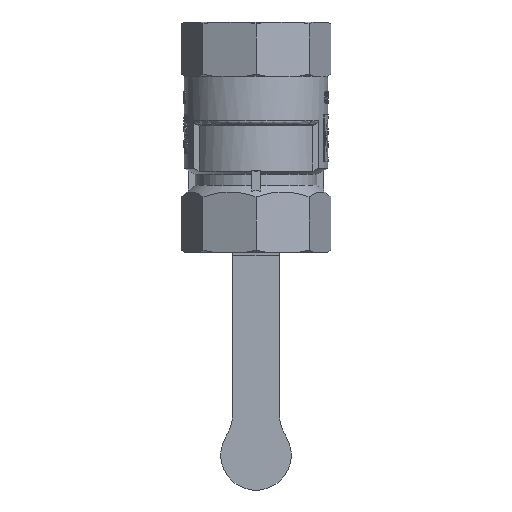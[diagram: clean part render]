
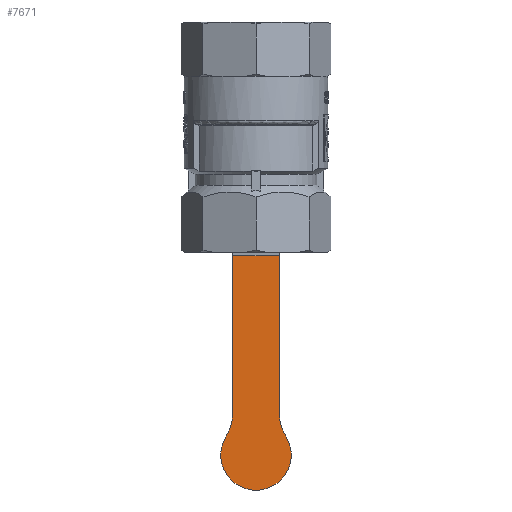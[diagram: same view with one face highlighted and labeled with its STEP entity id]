
A CAD part, front view. The second image highlights one B-rep face of the part: STEP entity #7671.
In plain terms, the highlighted planar face has unit normal (0, -1, 0).
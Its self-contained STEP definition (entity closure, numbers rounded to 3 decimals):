
#407=PLANE('',#8273);
#675=CIRCLE('',#8268,8.5);
#676=CIRCLE('',#8270,7.5);
#677=CIRCLE('',#8272,8.5);
#1166=FACE_OUTER_BOUND('',#1640,.T.);
#1640=EDGE_LOOP('',(#6963,#6964,#6965,#6966,#6967,#6968));
#2170=LINE('',#20420,#2691);
#2179=LINE('',#20448,#2700);
#2180=LINE('',#20449,#2701);
#2691=VECTOR('',#9898,10.);
#2700=VECTOR('',#9933,10.);
#2701=VECTOR('',#9934,10.);
#3680=VERTEX_POINT('',#20417);
#3681=VERTEX_POINT('',#20419);
#3684=VERTEX_POINT('',#20435);
#3685=VERTEX_POINT('',#20439);
#3686=VERTEX_POINT('',#20443);
#3687=VERTEX_POINT('',#20447);
#4802=EDGE_CURVE('',#3681,#3680,#2170,.T.);
#4811=EDGE_CURVE('',#3684,#3680,#675,.T.);
#4813=EDGE_CURVE('',#3685,#3684,#676,.T.);
#4815=EDGE_CURVE('',#3686,#3685,#677,.T.);
#4816=EDGE_CURVE('',#3686,#3687,#2179,.T.);
#4817=EDGE_CURVE('',#3687,#3681,#2180,.T.);
#6963=ORIENTED_EDGE('',*,*,#4816,.T.);
#6964=ORIENTED_EDGE('',*,*,#4817,.T.);
#6965=ORIENTED_EDGE('',*,*,#4802,.T.);
#6966=ORIENTED_EDGE('',*,*,#4811,.F.);
#6967=ORIENTED_EDGE('',*,*,#4813,.F.);
#6968=ORIENTED_EDGE('',*,*,#4815,.F.);
#7671=ADVANCED_FACE('',(#1166),#407,.T.);
#8268=AXIS2_PLACEMENT_3D('',#20437,#9919,#9920);
#8270=AXIS2_PLACEMENT_3D('',#20441,#9924,#9925);
#8272=AXIS2_PLACEMENT_3D('',#20445,#9929,#9930);
#8273=AXIS2_PLACEMENT_3D('',#20446,#9931,#9932);
#9898=DIRECTION('',(0.,0.,-1.));
#9919=DIRECTION('center_axis',(0.,-1.,0.));
#9920=DIRECTION('ref_axis',(0.96,0.,-0.28));
#9924=DIRECTION('center_axis',(0.,1.,0.));
#9925=DIRECTION('ref_axis',(-1.,0.,0.));
#9929=DIRECTION('center_axis',(0.,-1.,0.));
#9930=DIRECTION('ref_axis',(-0.96,0.,-0.28));
#9931=DIRECTION('center_axis',(0.,-1.,0.));
#9932=DIRECTION('ref_axis',(0.,0.,-1.));
#9933=DIRECTION('',(0.,0.,1.));
#9934=DIRECTION('',(-1.,0.,0.));
#20417=CARTESIAN_POINT('',(-5.,34.75,-59.708));
#20419=CARTESIAN_POINT('',(-5.,34.75,-25.857));
#20420=CARTESIAN_POINT('',(-5.,34.75,-53.589));
#20435=CARTESIAN_POINT('',(-6.328,34.75,-64.27));
#20437=CARTESIAN_POINT('Origin',(-13.5,34.75,-59.708));
#20439=CARTESIAN_POINT('',(6.328,34.75,-64.27));
#20441=CARTESIAN_POINT('Origin',(0.,34.75,-68.296));
#20443=CARTESIAN_POINT('',(5.,34.75,-59.708));
#20445=CARTESIAN_POINT('Origin',(13.5,34.75,-59.708));
#20446=CARTESIAN_POINT('Origin',(0.,34.75,-25.857));
#20447=CARTESIAN_POINT('',(5.,34.75,-25.857));
#20448=CARTESIAN_POINT('',(5.,34.75,-17.443));
#20449=CARTESIAN_POINT('',(0.,34.75,-25.857));
